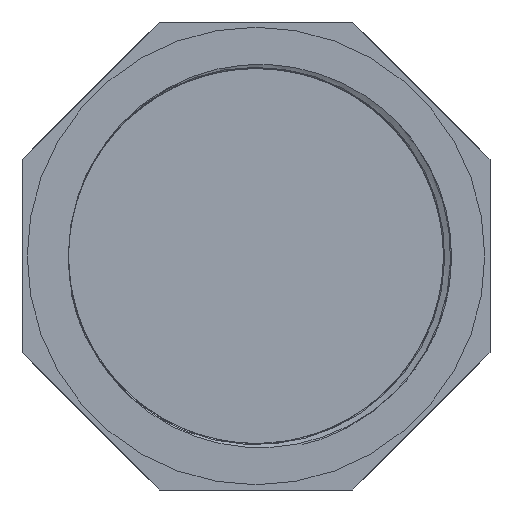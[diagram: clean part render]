
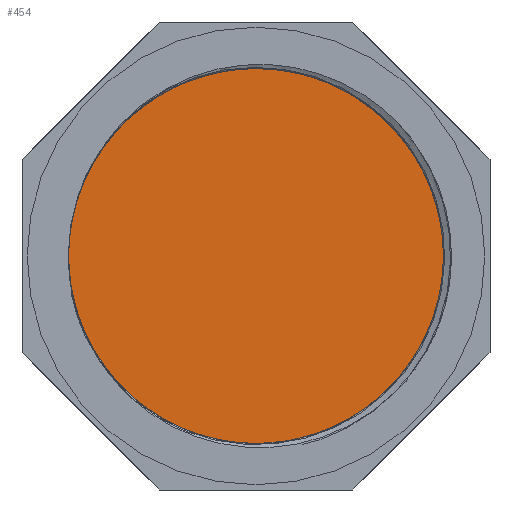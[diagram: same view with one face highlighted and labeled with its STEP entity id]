
A CAD part, front view. The second image highlights one B-rep face of the part: STEP entity #454.
In plain terms, the highlighted planar face has unit normal (0, -1, 0).
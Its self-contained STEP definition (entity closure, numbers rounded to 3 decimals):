
#26=PLANE('',#485);
#123=FACE_OUTER_BOUND('',#154,.T.);
#154=EDGE_LOOP('',(#344));
#184=CIRCLE('',#484,36.113);
#220=VERTEX_POINT('',#5466);
#267=EDGE_CURVE('',#220,#220,#184,.T.);
#344=ORIENTED_EDGE('',*,*,#267,.F.);
#454=ADVANCED_FACE('',(#123),#26,.F.);
#484=AXIS2_PLACEMENT_3D('',#5467,#535,#536);
#485=AXIS2_PLACEMENT_3D('',#5468,#537,#538);
#535=DIRECTION('center_axis',(0.,1.,0.));
#536=DIRECTION('ref_axis',(-1.,0.,0.));
#537=DIRECTION('center_axis',(0.,1.,0.));
#538=DIRECTION('ref_axis',(0.,0.,1.));
#5466=CARTESIAN_POINT('',(36.113,41.,0.));
#5467=CARTESIAN_POINT('Origin',(0.,41.,0.));
#5468=CARTESIAN_POINT('Origin',(0.,41.,0.));
